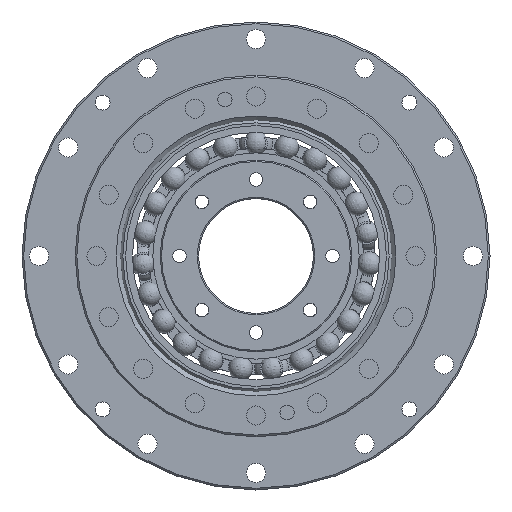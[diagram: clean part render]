
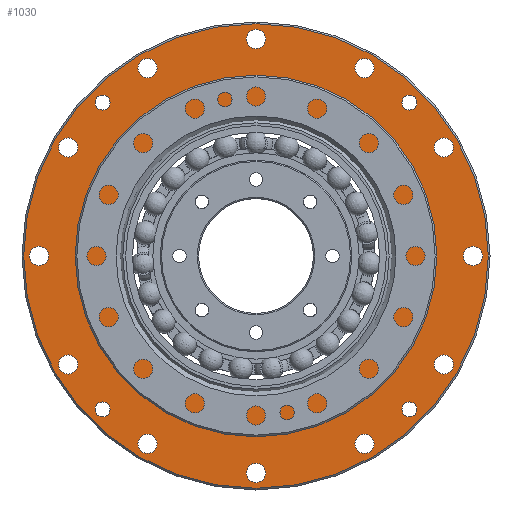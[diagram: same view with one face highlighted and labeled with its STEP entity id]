
A CAD part, left-side view. The second image highlights one B-rep face of the part: STEP entity #1030.
In plain terms, the highlighted planar face has unit normal (-1, 0, 0).
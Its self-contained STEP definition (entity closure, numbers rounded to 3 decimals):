
#962=PLANE('',#5059);
#1030=ADVANCED_FACE('',(#1424,#1425,#1426,#1427,#1428,#1429,#1430,#1431,
#1432,#1433,#1434,#1435,#1436,#1437,#1438,#1439,#1440,#1441),#962,.T.);
#1424=FACE_BOUND('',#1737,.T.);
#1425=FACE_BOUND('',#1738,.T.);
#1426=FACE_BOUND('',#1739,.T.);
#1427=FACE_BOUND('',#1740,.T.);
#1428=FACE_BOUND('',#1741,.T.);
#1429=FACE_BOUND('',#1742,.T.);
#1430=FACE_BOUND('',#1743,.T.);
#1431=FACE_BOUND('',#1744,.T.);
#1432=FACE_BOUND('',#1745,.T.);
#1433=FACE_BOUND('',#1746,.T.);
#1434=FACE_BOUND('',#1747,.T.);
#1435=FACE_BOUND('',#1748,.T.);
#1436=FACE_BOUND('',#1749,.T.);
#1437=FACE_BOUND('',#1750,.T.);
#1438=FACE_BOUND('',#1751,.T.);
#1439=FACE_BOUND('',#1752,.T.);
#1440=FACE_BOUND('',#1753,.T.);
#1441=FACE_BOUND('',#1754,.T.);
#1737=EDGE_LOOP('',(#2195));
#1738=EDGE_LOOP('',(#2196));
#1739=EDGE_LOOP('',(#2197));
#1740=EDGE_LOOP('',(#2198));
#1741=EDGE_LOOP('',(#2199));
#1742=EDGE_LOOP('',(#2200));
#1743=EDGE_LOOP('',(#2201));
#1744=EDGE_LOOP('',(#2202));
#1745=EDGE_LOOP('',(#2203));
#1746=EDGE_LOOP('',(#2204));
#1747=EDGE_LOOP('',(#2205));
#1748=EDGE_LOOP('',(#2206));
#1749=EDGE_LOOP('',(#2207));
#1750=EDGE_LOOP('',(#2208));
#1751=EDGE_LOOP('',(#2209));
#1752=EDGE_LOOP('',(#2210));
#1753=EDGE_LOOP('',(#2211));
#1754=EDGE_LOOP('',(#2212));
#2195=ORIENTED_EDGE('',*,*,#3994,.T.);
#2196=ORIENTED_EDGE('',*,*,#3995,.T.);
#2197=ORIENTED_EDGE('',*,*,#3996,.T.);
#2198=ORIENTED_EDGE('',*,*,#3997,.T.);
#2199=ORIENTED_EDGE('',*,*,#3998,.T.);
#2200=ORIENTED_EDGE('',*,*,#3999,.T.);
#2201=ORIENTED_EDGE('',*,*,#4000,.T.);
#2202=ORIENTED_EDGE('',*,*,#4001,.T.);
#2203=ORIENTED_EDGE('',*,*,#4002,.T.);
#2204=ORIENTED_EDGE('',*,*,#4003,.T.);
#2205=ORIENTED_EDGE('',*,*,#4004,.T.);
#2206=ORIENTED_EDGE('',*,*,#4005,.T.);
#2207=ORIENTED_EDGE('',*,*,#4006,.T.);
#2208=ORIENTED_EDGE('',*,*,#4007,.T.);
#2209=ORIENTED_EDGE('',*,*,#4008,.T.);
#2210=ORIENTED_EDGE('',*,*,#4009,.T.);
#2211=ORIENTED_EDGE('',*,*,#4010,.T.);
#2212=ORIENTED_EDGE('',*,*,#4011,.T.);
#3491=VERTEX_POINT('',#6941);
#3492=VERTEX_POINT('',#6943);
#3493=VERTEX_POINT('',#6945);
#3494=VERTEX_POINT('',#6947);
#3495=VERTEX_POINT('',#6949);
#3496=VERTEX_POINT('',#6951);
#3497=VERTEX_POINT('',#6953);
#3498=VERTEX_POINT('',#6955);
#3499=VERTEX_POINT('',#6957);
#3500=VERTEX_POINT('',#6959);
#3501=VERTEX_POINT('',#6961);
#3502=VERTEX_POINT('',#6963);
#3503=VERTEX_POINT('',#6965);
#3504=VERTEX_POINT('',#6967);
#3505=VERTEX_POINT('',#6969);
#3506=VERTEX_POINT('',#6971);
#3507=VERTEX_POINT('',#6973);
#3508=VERTEX_POINT('',#6975);
#3994=EDGE_CURVE('',#3491,#3491,#4725,.T.);
#3995=EDGE_CURVE('',#3492,#3492,#4726,.T.);
#3996=EDGE_CURVE('',#3493,#3493,#4727,.T.);
#3997=EDGE_CURVE('',#3494,#3494,#4728,.T.);
#3998=EDGE_CURVE('',#3495,#3495,#4729,.T.);
#3999=EDGE_CURVE('',#3496,#3496,#4730,.T.);
#4000=EDGE_CURVE('',#3497,#3497,#4731,.T.);
#4001=EDGE_CURVE('',#3498,#3498,#4732,.T.);
#4002=EDGE_CURVE('',#3499,#3499,#4733,.T.);
#4003=EDGE_CURVE('',#3500,#3500,#4734,.T.);
#4004=EDGE_CURVE('',#3501,#3501,#4735,.T.);
#4005=EDGE_CURVE('',#3502,#3502,#4736,.T.);
#4006=EDGE_CURVE('',#3503,#3503,#4737,.T.);
#4007=EDGE_CURVE('',#3504,#3504,#4738,.T.);
#4008=EDGE_CURVE('',#3505,#3505,#4739,.T.);
#4009=EDGE_CURVE('',#3506,#3506,#4740,.T.);
#4010=EDGE_CURVE('',#3507,#3507,#4741,.T.);
#4011=EDGE_CURVE('',#3508,#3508,#4742,.T.);
#4725=CIRCLE('',#5041,32.25);
#4726=CIRCLE('',#5042,1.75);
#4727=CIRCLE('',#5043,1.75);
#4728=CIRCLE('',#5044,1.75);
#4729=CIRCLE('',#5045,1.75);
#4730=CIRCLE('',#5046,2.25);
#4731=CIRCLE('',#5047,2.25);
#4732=CIRCLE('',#5048,2.25);
#4733=CIRCLE('',#5049,2.25);
#4734=CIRCLE('',#5050,2.25);
#4735=CIRCLE('',#5051,2.25);
#4736=CIRCLE('',#5052,2.25);
#4737=CIRCLE('',#5053,2.25);
#4738=CIRCLE('',#5054,2.25);
#4739=CIRCLE('',#5055,2.25);
#4740=CIRCLE('',#5056,2.25);
#4741=CIRCLE('',#5057,2.25);
#4742=CIRCLE('',#5058,54.6);
#5041=AXIS2_PLACEMENT_3D('',#6940,#5656,#5657);
#5042=AXIS2_PLACEMENT_3D('',#6942,#5658,#5659);
#5043=AXIS2_PLACEMENT_3D('',#6944,#5660,#5661);
#5044=AXIS2_PLACEMENT_3D('',#6946,#5662,#5663);
#5045=AXIS2_PLACEMENT_3D('',#6948,#5664,#5665);
#5046=AXIS2_PLACEMENT_3D('',#6950,#5666,#5667);
#5047=AXIS2_PLACEMENT_3D('',#6952,#5668,#5669);
#5048=AXIS2_PLACEMENT_3D('',#6954,#5670,#5671);
#5049=AXIS2_PLACEMENT_3D('',#6956,#5672,#5673);
#5050=AXIS2_PLACEMENT_3D('',#6958,#5674,#5675);
#5051=AXIS2_PLACEMENT_3D('',#6960,#5676,#5677);
#5052=AXIS2_PLACEMENT_3D('',#6962,#5678,#5679);
#5053=AXIS2_PLACEMENT_3D('',#6964,#5680,#5681);
#5054=AXIS2_PLACEMENT_3D('',#6966,#5682,#5683);
#5055=AXIS2_PLACEMENT_3D('',#6968,#5684,#5685);
#5056=AXIS2_PLACEMENT_3D('',#6970,#5686,#5687);
#5057=AXIS2_PLACEMENT_3D('',#6972,#5688,#5689);
#5058=AXIS2_PLACEMENT_3D('',#6974,#5690,#5691);
#5059=AXIS2_PLACEMENT_3D('',#6976,#5692,#5693);
#5656=DIRECTION('',(1.,0.,0.));
#5657=DIRECTION('',(0.,-1.,0.));
#5658=DIRECTION('',(1.,0.,0.));
#5659=DIRECTION('',(0.,0.,1.));
#5660=DIRECTION('',(1.,0.,0.));
#5661=DIRECTION('',(0.,0.,1.));
#5662=DIRECTION('',(1.,0.,0.));
#5663=DIRECTION('',(0.,0.,1.));
#5664=DIRECTION('',(1.,0.,0.));
#5665=DIRECTION('',(0.,0.,1.));
#5666=DIRECTION('',(1.,0.,0.));
#5667=DIRECTION('',(0.,0.,1.));
#5668=DIRECTION('',(1.,0.,0.));
#5669=DIRECTION('',(0.,0.,1.));
#5670=DIRECTION('',(1.,0.,0.));
#5671=DIRECTION('',(0.,0.,1.));
#5672=DIRECTION('',(1.,0.,0.));
#5673=DIRECTION('',(0.,0.,1.));
#5674=DIRECTION('',(1.,0.,0.));
#5675=DIRECTION('',(0.,0.,1.));
#5676=DIRECTION('',(1.,0.,0.));
#5677=DIRECTION('',(0.,0.,1.));
#5678=DIRECTION('',(1.,0.,0.));
#5679=DIRECTION('',(0.,0.,1.));
#5680=DIRECTION('',(1.,0.,0.));
#5681=DIRECTION('',(0.,0.,1.));
#5682=DIRECTION('',(1.,0.,0.));
#5683=DIRECTION('',(0.,0.,1.));
#5684=DIRECTION('',(1.,0.,0.));
#5685=DIRECTION('',(0.,0.,1.));
#5686=DIRECTION('',(1.,0.,0.));
#5687=DIRECTION('',(0.,0.,1.));
#5688=DIRECTION('',(1.,0.,0.));
#5689=DIRECTION('',(0.,0.,1.));
#5690=DIRECTION('',(-1.,0.,0.));
#5691=DIRECTION('',(0.,0.,-1.));
#5692=DIRECTION('',(-1.,0.,0.));
#5693=DIRECTION('',(0.,0.,-1.));
#6940=CARTESIAN_POINT('',(31.1,0.,0.));
#6941=CARTESIAN_POINT('',(31.1,-32.25,0.));
#6942=CARTESIAN_POINT('',(31.1,-36.062,-36.062));
#6943=CARTESIAN_POINT('',(31.1,-36.062,-34.312));
#6944=CARTESIAN_POINT('',(31.1,36.062,-36.062));
#6945=CARTESIAN_POINT('',(31.1,36.062,-34.312));
#6946=CARTESIAN_POINT('',(31.1,36.062,36.062));
#6947=CARTESIAN_POINT('',(31.1,36.062,37.812));
#6948=CARTESIAN_POINT('',(31.1,-36.062,36.062));
#6949=CARTESIAN_POINT('',(31.1,-36.062,37.812));
#6950=CARTESIAN_POINT('',(31.1,-44.167,-25.5));
#6951=CARTESIAN_POINT('',(31.1,-44.167,-23.25));
#6952=CARTESIAN_POINT('',(31.1,-25.5,-44.167));
#6953=CARTESIAN_POINT('',(31.1,-25.5,-41.917));
#6954=CARTESIAN_POINT('',(31.1,0.,-51.));
#6955=CARTESIAN_POINT('',(31.1,0.,-48.75));
#6956=CARTESIAN_POINT('',(31.1,25.5,-44.167));
#6957=CARTESIAN_POINT('',(31.1,25.5,-41.917));
#6958=CARTESIAN_POINT('',(31.1,44.167,-25.5));
#6959=CARTESIAN_POINT('',(31.1,44.167,-23.25));
#6960=CARTESIAN_POINT('',(31.1,51.,0.));
#6961=CARTESIAN_POINT('',(31.1,51.,2.25));
#6962=CARTESIAN_POINT('',(31.1,44.167,25.5));
#6963=CARTESIAN_POINT('',(31.1,44.167,27.75));
#6964=CARTESIAN_POINT('',(31.1,25.5,44.167));
#6965=CARTESIAN_POINT('',(31.1,25.5,46.417));
#6966=CARTESIAN_POINT('',(31.1,0.,51.));
#6967=CARTESIAN_POINT('',(31.1,0.,53.25));
#6968=CARTESIAN_POINT('',(31.1,-25.5,44.167));
#6969=CARTESIAN_POINT('',(31.1,-25.5,46.417));
#6970=CARTESIAN_POINT('',(31.1,-44.167,25.5));
#6971=CARTESIAN_POINT('',(31.1,-44.167,27.75));
#6972=CARTESIAN_POINT('',(31.1,-51.,0.));
#6973=CARTESIAN_POINT('',(31.1,-51.,2.25));
#6974=CARTESIAN_POINT('',(31.1,0.,0.));
#6975=CARTESIAN_POINT('',(31.1,0.,-54.6));
#6976=CARTESIAN_POINT('',(31.1,-55.,0.));
